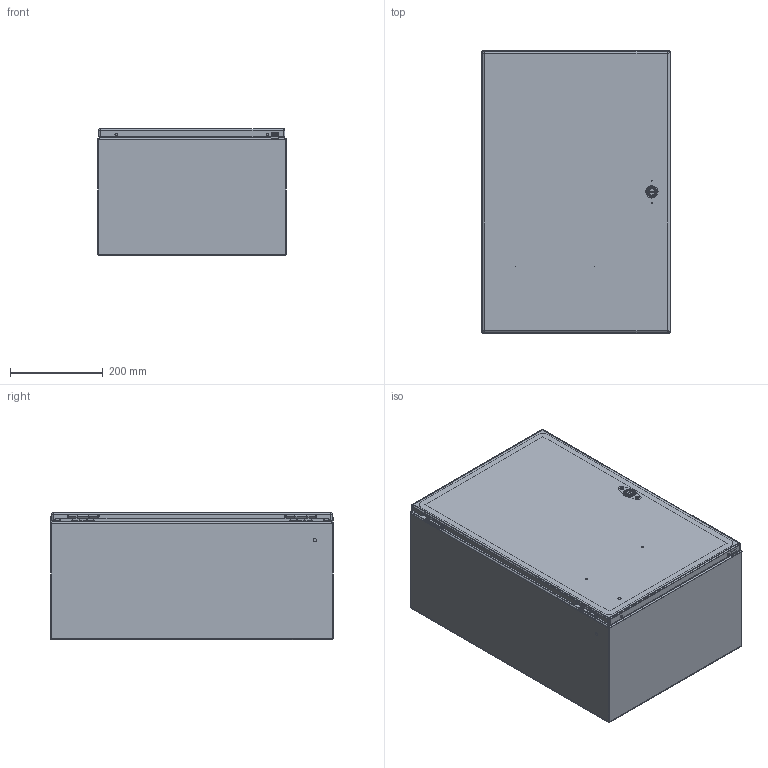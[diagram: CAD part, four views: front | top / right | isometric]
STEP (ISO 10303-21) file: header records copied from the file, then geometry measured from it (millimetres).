
FILE_DESCRIPTION (( 'STEP AP203' ), '1' );
FILE_NAME ('csd241610lg.STEP', '2012-05-09T17:10:54', ( 'User' ), ( 'Pentair Inc' ), 'SwSTEP 2.0', 'SolidWorks 2010', '' );
FILE_SCHEMA (( 'CONFIG_CONTROL_DESIGN' ));
Length unit declared in the file: inch
Products named in the file (27): 89076193; 89056623; 87929507; 87929767; 87929769_Installed on Pin; 87937929_assy; csd241610lg; 87934546; 87934349_default; 23271001_After Weld; 87937969_weldment; 87936126; 99401225; 87931362_87931362; 64101001; 64201001; 87541994_Installed Height; 87541995; 64202001; 64210001; 64203001; 87927840_87927840; 87932903; 64138001; 87938002; 87543027; 89076399
Assembly tree (38 placements, depth 4):
  csd241610lg
    89076399  x2
      89076193
      89056623
    87543027  x2
    87929507  x2
      87929769_Installed on Pin
      87929767
    87937929_assy
      87937969_weldment
        87931362_87931362  x4
        87936126
        99401225
      64101001
        64202001
        64210001
        64201001
        64203001
        87541994_Installed Height
        87541995
        87927840_87927840
      87938002
      87932903  x2
      64138001  x2
    87934546
      99401225
      23271001_After Weld  x4
      87934349_default
Bounding box: 406.4 x 610.33 x 274.7 mm (x, y, z)
Volume: 1504556 mm3; surface area: 2304585.3 mm2
Topology: 35 solids, 35 shells, 1689 faces, 4125 edges, 2490 vertices
Faces by surface type: plane 652, cylinder 547, bspline 288, torus 106, cone 88, sphere 8
Entity records: 46223 total; most frequent: CARTESIAN_POINT 16302, ORIENTED_EDGE 5874, DIRECTION 5117, EDGE_CURVE 2937, AXIS2_PLACEMENT_3D 1833, VERTEX_POINT 1802, VECTOR 1451, LINE 1451
